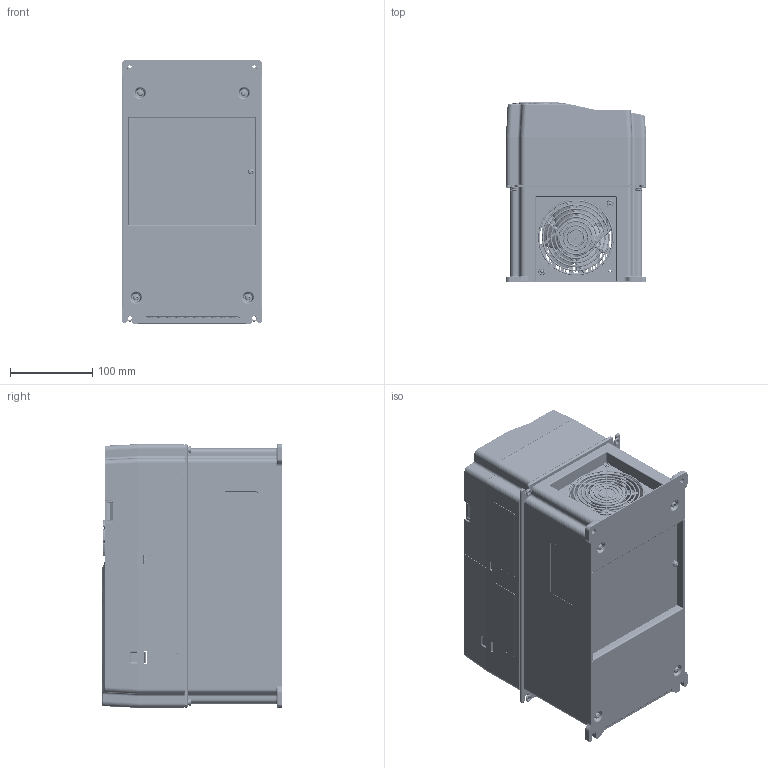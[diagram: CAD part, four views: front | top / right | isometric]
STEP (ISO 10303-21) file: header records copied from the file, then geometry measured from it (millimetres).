
FILE_DESCRIPTION((''),'2;1');
FILE_NAME('Open CASCADE Shape Model','2021-03-30T08:53:48',( 'Administrator'),(''),'Open CASCADE STEP processor 7.6', 'PRO/ENGINEER BY PARAMETRIC TECHNOLOGY CORPORATION, 2010100','Unknown' );
FILE_SCHEMA(('AUTOMOTIVE_DESIGN_CC2 { 1 2 10303 214 -1 1 5 4 }'));
Length unit declared in the file: millimetre
Products named in the file (40): GD350-015G-4_ASM; 80740009; 80740092; 80310003; 80740019; 70610008; 70610040; FENGSHANWANG; ASM_GD350-015G-4-COVER_ASM; 80810122; 80810122SY; 80810121; 80740179; 80740178; 80880485; KEY-LCD01-ZY-350_ASM; 80740163; 40810091_ASM; 80740162; 80880456; 80880456SY; 80740164; 80740164SY; KEY-LCD01-ZY-350-ES_ASM; 36002-00065; 39009-00082; 17003-02723_20180403_ASM; 17003-02723_20180403; GD350-015-4-FS_ASM; GB9074_4_M4X10; GB9074_4_M4X12; GB9074_13_M5X12; GB9074_4_M3X8; 77340010; GD350-015-4-ES_ASM; 2-21-19-092; 40800027_ASM; 80380188_ASM; S-M5-ZC; 80380189_ASM
Assembly tree (61 placements, depth 5):
  GD350-015G-4_ASM
    80740009
    80740092
    80310003
    80740019  x4
    70610008
    70610040
    FENGSHANWANG
    ASM_GD350-015G-4-COVER_ASM
      80810122
      80810122SY
      80810121
    80740179
    80740178
    80880485
    KEY-LCD01-ZY-350_ASM
      80740163
      40810091_ASM
        80740162
        80880456
        80880456SY
      80740164
      80740164SY
      KEY-LCD01-ZY-350-ES_ASM
        36002-00065
        39009-00082
        17003-02723_20180403_ASM
          17003-02723_20180403
    GD350-015-4-FS_ASM
      GB9074_4_M4X10  x8
      GB9074_4_M4X12  x7
      GB9074_13_M5X12  x2
      GB9074_4_M3X8  x3
      77340010
    GD350-015-4-ES_ASM
      2-21-19-092
    40800027_ASM
      80380188_ASM
        S-M5-ZC  x2
      80380189_ASM
        S-M5-ZC  x2
Bounding box: 170.6 x 219.16 x 320 mm (x, y, z)
Volume: 2990193.2 mm3; surface area: 2578820.2 mm2
Topology: 48 solids, 48 shells, 15495 faces, 43844 edges, 28362 vertices
Faces by surface type: plane 9583, cylinder 3589, extrusion 686, torus 582, bspline 484, cone 462, sphere 93, revolution 16
Entity records: 515759 total; most frequent: CARTESIAN_POINT 133263, ORIENTED_EDGE 83106, DIRECTION 73806, EDGE_CURVE 41553, VECTOR 30752, LINE 30066, VERTEX_POINT 26931, AXIS2_PLACEMENT_3D 21519
